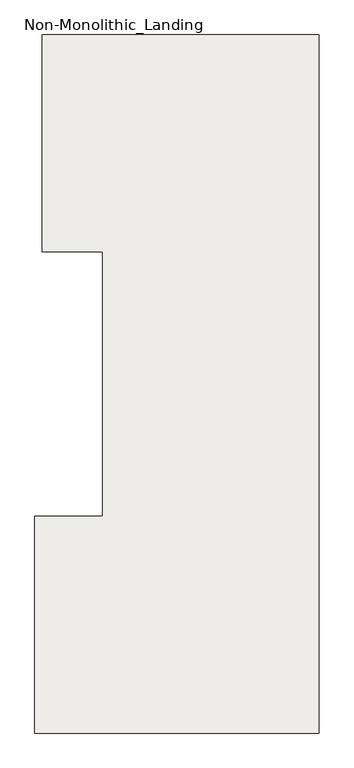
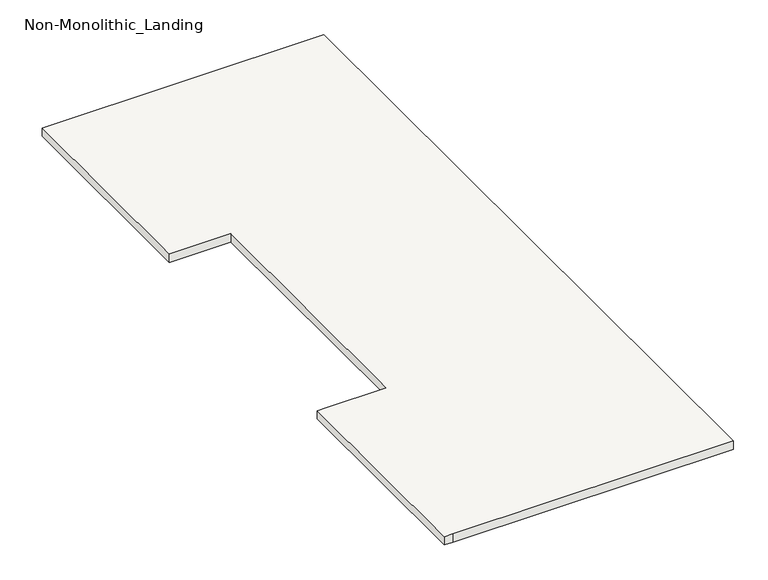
"""IFC4 building model written with IfcOpenShell, lengths in millimetres: slab geometry, Non-Monolithic_Landing."""

import ifcopenshell
import ifcopenshell.guid

model = None  # the IFC model being written
_history = None  # IfcOwnerHistory: only IFC2X3 demands one
_inside = {}  # id of a spatial element -> (the spatial element, [elements in it])
_under = {}  # id of a project, library or spatial element -> (it, [spatial elements below it])
_declared = {}  # id of a project -> (the project, [libraries it declares])
_typed = {}  # id of a type object -> (the type object, [elements of that type])
_made_of = {}  # id of a material, layer set ... -> (it, [elements and type objects made of it])


def new_model(schema):
    """Start an empty IFC model of exactly this schema.

    Asked for "IFC4X3", IfcOpenShell would pick the latest addendum, in which some entities
    have other attributes; the version numbers below select the first issue.
    IFC2X3 requires an IfcOwnerHistory on every rooted entity: one is made here for all.
    """
    global model, _history
    if schema == "IFC4X3":
        model = ifcopenshell.file(schema_version=(4, 3, 0, 0))
    else:
        model = ifcopenshell.file(schema=schema)
    _inside.clear()
    _under.clear()
    _declared.clear()
    _typed.clear()
    _made_of.clear()
    _history = None
    if model.schema == "IFC2X3":
        org = make("IfcOrganization", Name="unknown")
        user = make(
            "IfcPersonAndOrganization",
            ThePerson=make("IfcPerson", FamilyName="unknown"),
            TheOrganization=org,
        )
        app = make(
            "IfcApplication",
            ApplicationDeveloper=org,
            Version="unknown",
            ApplicationFullName="unknown",
            ApplicationIdentifier="unknown",
        )
        _history = make(
            "IfcOwnerHistory",
            OwningUser=user,
            OwningApplication=app,
            ChangeAction="ADDED",
            CreationDate=0,
        )
    return model


def make(cls, **values):
    """One entity of the class cls with the attributes given. An attribute that is None is left unset."""
    return model.create_entity(
        cls, **{name: value for name, value in values.items() if value is not None}
    )


def rooted(cls, **values):
    """An entity with a GlobalId (a new one), such as an element, a storey or a relation."""
    return make(cls, GlobalId=ifcopenshell.guid.new(), OwnerHistory=_history, **values)


def si_unit(unit_type, name, prefix=None):
    """IfcSIUnit, for example si_unit("LENGTHUNIT", "METRE", prefix="MILLI")."""
    return make("IfcSIUnit", UnitType=unit_type, Prefix=prefix, Name=name)


def assignment(units):
    """IfcUnitAssignment: the units of a project."""
    return None if units is None else make("IfcUnitAssignment", Units=units)


def point(xyz):
    """IfcCartesianPoint."""
    return None if xyz is None else make("IfcCartesianPoint", Coordinates=xyz)


def direction(xyz):
    """IfcDirection."""
    return None if xyz is None else make("IfcDirection", DirectionRatios=xyz)


def frame(location, z_axis=None, x_axis=None):
    """IfcAxis2Placement3D, a coordinate frame: its origin and axes. An axis left out is left unset."""
    return make(
        "IfcAxis2Placement3D",
        Location=point(location),
        Axis=direction(z_axis),
        RefDirection=direction(x_axis),
    )


def origin():
    """The frame at (0, 0, 0) with its axes left unset."""
    return frame((0.0, 0.0, 0.0))


def place(relative_to, where):
    """IfcLocalPlacement: puts the frame where relative to a parent placement (None: the world)."""
    return make(
        "IfcLocalPlacement", PlacementRelTo=relative_to, RelativePlacement=where
    )


def context(
    kind, dimensions, precision=None, world=None, true_north=None, identifier=None
):
    """IfcGeometricRepresentationContext, for example the 3D "Model" context."""
    return make(
        "IfcGeometricRepresentationContext",
        ContextIdentifier=identifier,
        ContextType=kind,
        CoordinateSpaceDimension=dimensions,
        Precision=precision,
        WorldCoordinateSystem=world,
        TrueNorth=true_north,
    )


def project(units=None, contexts=None):
    """IfcProject with its units and contexts."""
    return rooted(
        "IfcProject",
        Name="project",
        RepresentationContexts=contexts,
        UnitsInContext=assignment(units),
    )


def spatial(cls, under=None, at=None, **own):
    """A site, building, storey or space (cls), placed at a placement, below another one or the project."""
    s = rooted(cls, ObjectPlacement=at, **own)
    if under is not None:
        _under.setdefault(under.id(), (under, []))[1].append(s)
    return s


def polyline(points):
    """IfcPolyline through the points."""
    return make("IfcPolyline", Points=[point(p) for p in points])


def outline(outer, holes=None, kind="AREA"):
    """IfcArbitraryClosedProfileDef: a profile drawn as a closed curve; with holes, ...WithVoids."""
    if holes is None:
        return make("IfcArbitraryClosedProfileDef", ProfileType=kind, OuterCurve=outer)
    return make(
        "IfcArbitraryProfileDefWithVoids",
        ProfileType=kind,
        OuterCurve=outer,
        InnerCurves=holes,
    )


def extrude(swept, where, along, depth):
    """IfcExtrudedAreaSolid: the profile swept, set in the frame where, extruded along a direction by depth."""
    return make(
        "IfcExtrudedAreaSolid",
        SweptArea=swept,
        Position=where,
        ExtrudedDirection=direction(along),
        Depth=depth,
    )


def shape(context_of_items, identifier, shape_type, items):
    """IfcShapeRepresentation: the items that make up one representation, for example the "Body"."""
    return make(
        "IfcShapeRepresentation",
        ContextOfItems=context_of_items,
        RepresentationIdentifier=identifier,
        RepresentationType=shape_type,
        Items=items,
    )


def source(mapping_origin, context_of_items, identifier, shape_type, items):
    """IfcRepresentationMap: a shape defined once, which mapped items show again and again."""
    return make(
        "IfcRepresentationMap",
        MappingOrigin=mapping_origin,
        MappedRepresentation=shape(context_of_items, identifier, shape_type, items),
    )


def transform(
    local_origin,
    x_axis=None,
    y_axis=None,
    z_axis=None,
    scale=None,
    scale2=None,
    scale3=None,
    uniform=True,
):
    """IfcCartesianTransformationOperator3D, or its non-uniform kind. x_axis, y_axis, z_axis: its Axis1, 2, 3."""
    if uniform:
        return make(
            "IfcCartesianTransformationOperator3D",
            Axis1=direction(x_axis),
            Axis2=direction(y_axis),
            LocalOrigin=point(local_origin),
            Scale=scale,
            Axis3=direction(z_axis),
        )
    return make(
        "IfcCartesianTransformationOperator3DnonUniform",
        Axis1=direction(x_axis),
        Axis2=direction(y_axis),
        LocalOrigin=point(local_origin),
        Scale=scale,
        Axis3=direction(z_axis),
        Scale2=scale2,
        Scale3=scale3,
    )


def mapped(mapping_source, mapping_target):
    """IfcMappedItem: shows the shape of a source again, moved by a transform."""
    return make(
        "IfcMappedItem", MappingSource=mapping_source, MappingTarget=mapping_target
    )


def made_of(thing, what):
    """Note that an element or type object is made of a material, layer set ...; save() writes the relation."""
    if what is not None:
        _made_of.setdefault(what.id(), (what, []))[1].append(thing)
    return thing


def element(
    cls,
    number,
    at=None,
    inside=None,
    cuts=None,
    type_object=None,
    material=None,
    context=None,
    identifier="Body",
    shape_type=None,
    held_by="IfcProductDefinitionShape",
    body=None,
    shapes=None,
    **own,
):
    """One element of the class cls, such as IfcWall. Its Tag is "e" and its number.

    at: its placement. inside: the storey or other place that contains it. cuts: it is an
    opening in that element (IfcRelVoidsElement). A single representation is given by context,
    identifier, shape_type and body (its items); several are given by shapes. held_by: the class
    of the entity that holds the representations. save() writes the other relations.
    """
    e = rooted(cls, Tag="e%d" % number, ObjectPlacement=at, **own)
    if body is not None:
        shapes = [shape(context, identifier, shape_type, body)]
    if shapes is not None:
        e.Representation = make(held_by, Representations=shapes)
    if inside is not None:
        _inside.setdefault(inside.id(), (inside, []))[1].append(e)
    if cuts is not None:
        rooted(
            "IfcRelVoidsElement", RelatingBuildingElement=cuts, RelatedOpeningElement=e
        )
    if type_object is not None:
        _typed.setdefault(type_object.id(), (type_object, []))[1].append(e)
    return made_of(e, material)


def aggregate(whole, parts):
    """IfcRelAggregates: a whole, such as a stair, and the parts it consists of."""
    return rooted("IfcRelAggregates", RelatingObject=whole, RelatedObjects=parts)


def save(model, path):
    """Write the relations noted so far, then the file.

    IfcRelAggregates (storeys below a building ...), IfcRelContainedInSpatialStructure (elements
    in a storey), IfcRelDefinesByType, IfcRelAssociatesMaterial and IfcRelDeclares: one each for
    every whole, place, type object, material and project.
    """
    for whole, parts in _under.values():
        aggregate(whole, parts)
    for where, things in _inside.values():
        rooted(
            "IfcRelContainedInSpatialStructure",
            RelatedElements=things,
            RelatingStructure=where,
        )
    for kind, things in _typed.values():
        rooted("IfcRelDefinesByType", RelatedObjects=things, RelatingType=kind)
    for what, things in _made_of.values():
        rooted("IfcRelAssociatesMaterial", RelatedObjects=things, RelatingMaterial=what)
    for by, libraries in _declared.values():
        rooted("IfcRelDeclares", RelatingContext=by, RelatedDefinitions=libraries)
    model.write(path)


def non_monolithic_landing_37051d89(model_context):
    return source(origin(), model_context, "Body", "SweptSolid", [
        extrude(outline(polyline([(38085.7942367, 1.8025492), (39365.7942367, 1.8025492), (39365.7942367, -3220.8571952), (38092.2647128, -3220.8571952), (38052.2647128, -3220.8571952), (38052.2647128, -2220.8571952), (38092.2647128, -2220.8571952), (38365.7942367, -2220.8571952), (38365.7942367, -998.1974508), (38085.7942367, -998.1974508), (38085.7942367, 1.8025492)])), frame((0.0, 0.0, 9185.0), z_axis=(0.0, 0.0, 1.0), x_axis=(1.0, 0.0, 0.0)), (0.0, 0.0, 1.0), 40.0),
    ])


if __name__ == "__main__":
    model = new_model("IFC4")
    model_context = context("Model", 3, world=origin())
    ifc_project = project(units=[si_unit("LENGTHUNIT", "METRE", prefix="MILLI")], contexts=[model_context])
    site = spatial("IfcSite", under=ifc_project)
    building = spatial("IfcBuilding", under=site)
    placement = place(None, origin())
    non_monolithic_landing_shape = non_monolithic_landing_37051d89(model_context)
    element("IfcSlab", 1, ObjectType="Non-Monolithic_Landing", at=placement, inside=building, context=model_context, shape_type="MappedRepresentation", body=[
        mapped(non_monolithic_landing_shape, transform((0.0, 0.0, 0.0), x_axis=(1.0, 0.0, 0.0), y_axis=(0.0, 1.0, 0.0), z_axis=(0.0, 0.0, 1.0))),
    ])
    save(model, "model.ifc")
